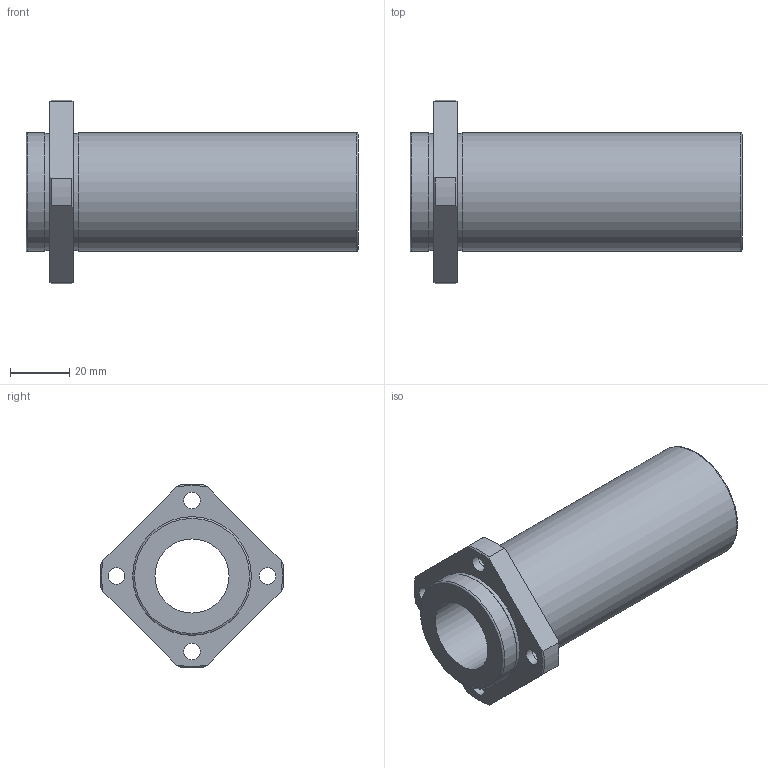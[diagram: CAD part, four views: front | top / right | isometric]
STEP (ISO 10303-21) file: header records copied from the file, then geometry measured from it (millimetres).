
FILE_DESCRIPTION(('STEP AP203'),'1');
FILE_NAME('//192.168.1.1/share/s-4 技術開発/s-4-4_CAD/s-4-4-3_見直し済み/002 修正済み/NFIS-VL/NFIS-VL_TOP/NFIS-25VLUU.step','2022-03-08T02:38:08',(' '),(' '),'Spatial InterOp 3D',' ',' ');
FILE_SCHEMA(('CONFIG_CONTROL_DESIGN'));
Length unit declared in the file: millimetre
Products named in the file (1): 1
Bounding box: 112 x 61.92 x 61.92 mm (x, y, z)
Volume: 93370.9 mm3; surface area: 27817.5 mm2
Topology: 1 solids, 1 shells, 41 faces, 97 edges, 66 vertices
Faces by surface type: cylinder 17, plane 14, cone 8, torus 2
Full cylindrical faces by diameter (mm): 5.5 x4, 9 x4, 25 x1, 39.5 x2, 40 x2
Entity records: 1158 total; most frequent: CARTESIAN_POINT 226, DIRECTION 188, ORIENTED_EDGE 152, AXIS2_PLACEMENT_3D 86, EDGE_CURVE 76, EDGE_LOOP 74, VERTEX_POINT 60, FACE_OUTER_BOUND 56
